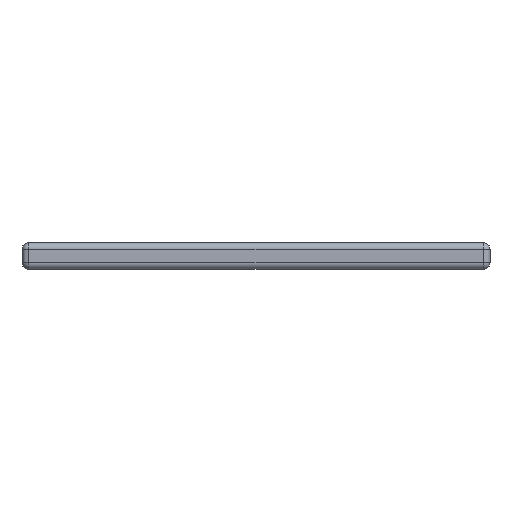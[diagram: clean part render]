
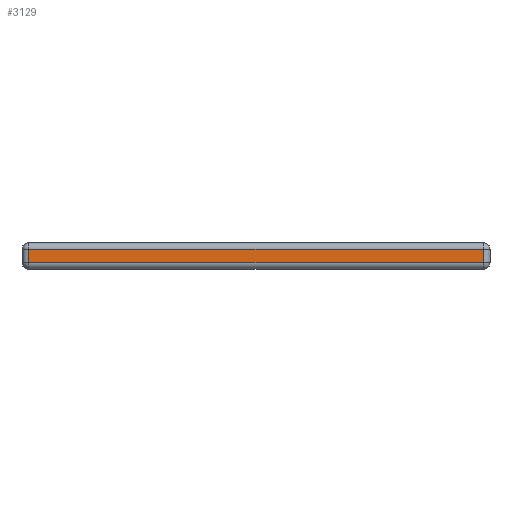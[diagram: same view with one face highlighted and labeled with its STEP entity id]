
A CAD part, front view. The second image highlights one B-rep face of the part: STEP entity #3129.
In plain terms, the highlighted planar face has unit normal (0, -1, 0).
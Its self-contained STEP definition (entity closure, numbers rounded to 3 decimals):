
#271=PLANE('',#3571);
#282=LINE('',#4764,#432);
#285=LINE('',#4783,#435);
#288=LINE('',#4787,#438);
#290=LINE('',#4790,#440);
#432=VECTOR('',#3768,10.);
#435=VECTOR('',#3791,10.);
#438=VECTOR('',#3796,10.);
#440=VECTOR('',#3800,10.);
#735=FACE_OUTER_BOUND('',#1139,.T.);
#1139=EDGE_LOOP('',(#2585,#2586,#2587,#2588));
#1552=VERTEX_POINT('',#4733);
#1559=VERTEX_POINT('',#4754);
#1563=VERTEX_POINT('',#4769);
#1565=VERTEX_POINT('',#4774);
#1846=EDGE_CURVE('',#1552,#1559,#282,.T.);
#1855=EDGE_CURVE('',#1559,#1565,#285,.T.);
#1858=EDGE_CURVE('',#1565,#1563,#288,.T.);
#1860=EDGE_CURVE('',#1563,#1552,#290,.T.);
#2585=ORIENTED_EDGE('',*,*,#1846,.F.);
#2586=ORIENTED_EDGE('',*,*,#1860,.F.);
#2587=ORIENTED_EDGE('',*,*,#1858,.F.);
#2588=ORIENTED_EDGE('',*,*,#1855,.F.);
#3129=ADVANCED_FACE('',(#735),#271,.F.);
#3571=AXIS2_PLACEMENT_3D('',#5308,#4325,#4326);
#3768=DIRECTION('',(-1.,0.,0.));
#3791=DIRECTION('',(0.,0.,1.));
#3796=DIRECTION('',(1.,0.,0.));
#3800=DIRECTION('',(0.,0.,-1.));
#4325=DIRECTION('center_axis',(0.,1.,0.));
#4326=DIRECTION('ref_axis',(0.,0.,-1.));
#4733=CARTESIAN_POINT('',(34.5,0.,0.5));
#4754=CARTESIAN_POINT('',(0.5,0.,0.5));
#4764=CARTESIAN_POINT('',(17.5,0.,0.5));
#4769=CARTESIAN_POINT('',(34.5,0.,1.5));
#4774=CARTESIAN_POINT('',(0.5,0.,1.5));
#4783=CARTESIAN_POINT('',(0.5,0.,1.));
#4787=CARTESIAN_POINT('',(17.5,0.,1.5));
#4790=CARTESIAN_POINT('',(34.5,0.,1.));
#5308=CARTESIAN_POINT('Origin',(17.5,0.,1.));
